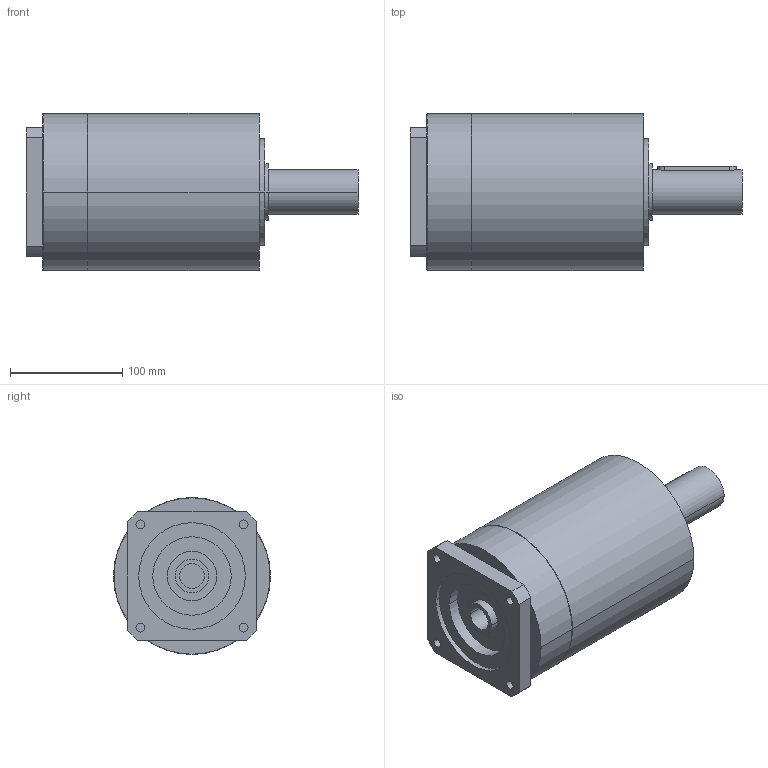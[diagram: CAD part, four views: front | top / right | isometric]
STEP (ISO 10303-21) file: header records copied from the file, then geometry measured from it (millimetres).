
FILE_DESCRIPTION(('CoCreate Modeling STEP Export'),'2;1');
FILE_NAME('GPR150_ig-9-12-16-20-28-35_40_B14_22_P10.stp','2014-08-26T15:30:40',(''),(''),'CoCreate Modeling STEP processor for AP214 (Solid Model)','CoCreate Modeling 16.00C 25-Feb-2009 (C) Parametric Technology GmbH','');
FILE_SCHEMA(('AUTOMOTIVE_DESIGN { 1 0 10303 214 1 1 1 1 }'));
Length unit declared in the file: millimetre
Products named in the file (2): GPR150_ig-9-12-16-20-28-35_40_B14_22_P10
Assembly tree (1 placements, depth 2):
  GPR150_ig-9-12-16-20-28-35_40_B14_22_P10
    GPR150_ig-9-12-16-20-28-35_40_B14_22_P10
Bounding box: 296 x 140 x 140 mm (x, y, z)
Volume: 3206944.2 mm3; surface area: 150389.8 mm2
Topology: 1 solids, 1 shells, 84 faces, 204 edges, 138 vertices
Faces by surface type: cylinder 44, plane 34, cone 6
Entity records: 2111 total; most frequent: ORIENTED_EDGE 404, CARTESIAN_POINT 402, DIRECTION 280, EDGE_CURVE 202, VERTEX_POINT 138, AXIS2_PLACEMENT_3D 104, EDGE_LOOP 102, FACE_OUTER_BOUND 84
